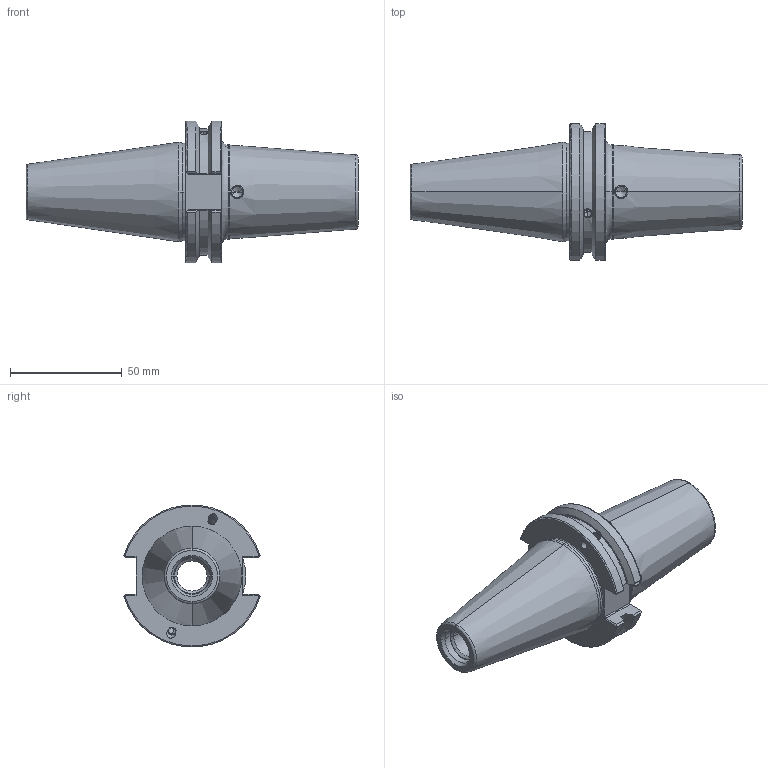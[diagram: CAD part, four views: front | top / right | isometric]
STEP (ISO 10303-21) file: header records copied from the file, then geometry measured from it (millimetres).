
FILE_DESCRIPTION((''),'2;1');
FILE_NAME('CAT40ADB-SFH19_05C-80','2020-09-02T08:28:56',('ssktool'),(''),'CREO PARAMETRIC BY PTC INC, 2018100','CREO PARAMETRIC BY PTC INC, 2018100','');
FILE_SCHEMA(('CONFIG_CONTROL_DESIGN'));
Length unit declared in the file: millimetre
Products named in the file (1): CAT40ADB-SFH19_05C-80
Bounding box: 148.25 x 60.84 x 63.27 mm (x, y, z)
Volume: 149879.2 mm3; surface area: 35240.9 mm2
Topology: 1 solids, 10 shells, 191 faces, 528 edges, 339 vertices
Faces by surface type: cylinder 78, plane 57, cone 34, torus 18, bspline 4
Entity records: 6717 total; most frequent: CARTESIAN_POINT 1964, DIRECTION 970, ORIENTED_EDGE 956, EDGE_CURVE 514, AXIS2_PLACEMENT_3D 390, VERTEX_POINT 339, EDGE_LOOP 219, CIRCLE 202
